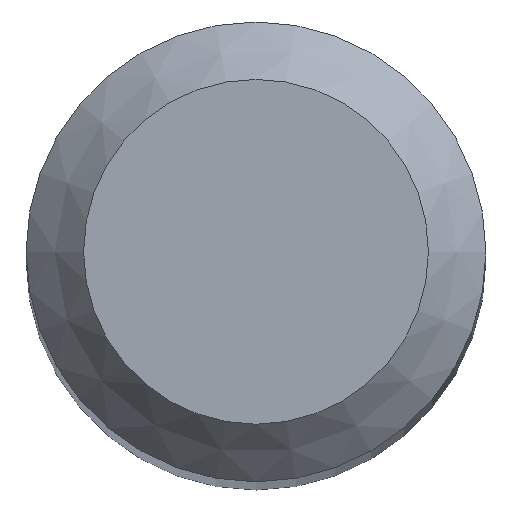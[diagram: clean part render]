
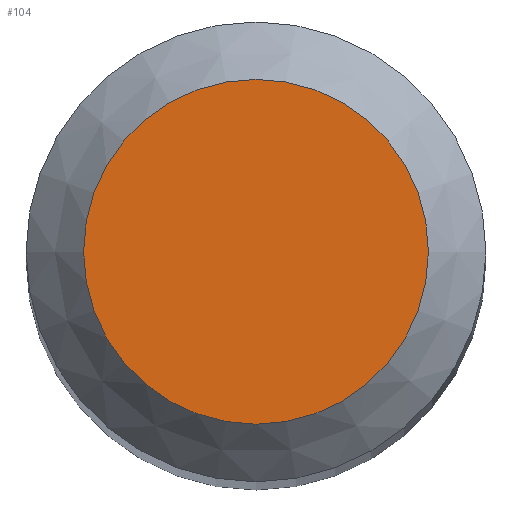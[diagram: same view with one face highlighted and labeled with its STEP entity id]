
A CAD part, top view. The second image highlights one B-rep face of the part: STEP entity #104.
In plain terms, the highlighted planar face has unit normal (0, 0, 1).
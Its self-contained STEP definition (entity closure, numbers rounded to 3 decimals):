
#88=CARTESIAN_POINT('',(1.5,0.0,51.));
#89=DIRECTION('',(0.0,0.0,1.0));
#90=DIRECTION('',(1.0,0.0,0.0));
#91=AXIS2_PLACEMENT_3D('',#88,#89,#90);
#92=PLANE('',#91);
#93=CARTESIAN_POINT('',(-1.5,0.0,51.));
#94=VERTEX_POINT('',#93);
#95=CARTESIAN_POINT('',(0.0,0.0,51.));
#96=DIRECTION('',(0.0,0.0,-1.0));
#97=DIRECTION('',(-1.0,0.0,0.0));
#98=AXIS2_PLACEMENT_3D('',#95,#96,#97);
#99=CIRCLE('',#98,1.5);
#100=EDGE_CURVE('',#94,#94,#99,.T.);
#101=ORIENTED_EDGE('',*,*,#100,.F.);
#102=EDGE_LOOP('',(#101));
#103=FACE_OUTER_BOUND('',#102,.T.);
#104=ADVANCED_FACE('',(#103),#92,.T.);
